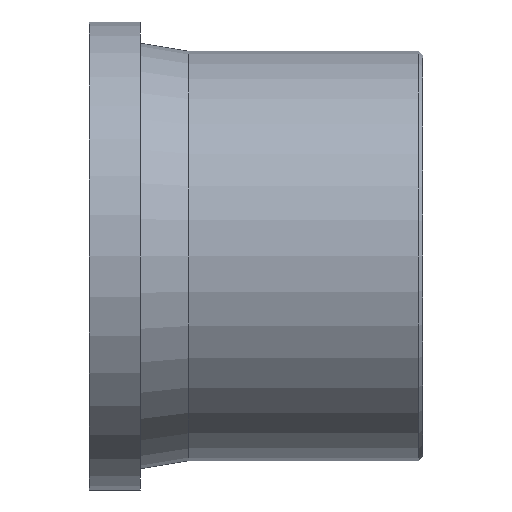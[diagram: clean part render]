
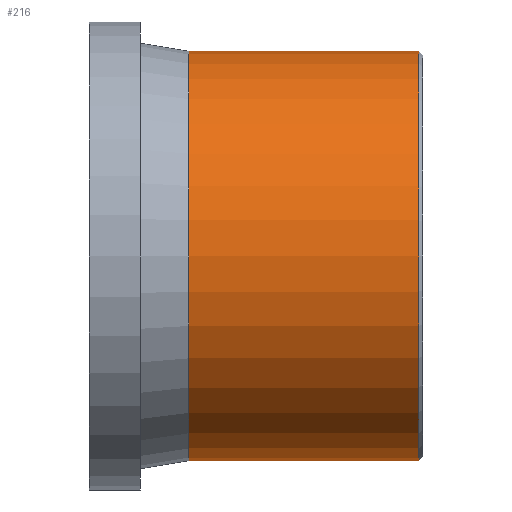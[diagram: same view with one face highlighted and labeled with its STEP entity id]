
A CAD part, front view. The second image highlights one B-rep face of the part: STEP entity #216.
In plain terms, the highlighted cylindrical face has radius 140 mm (diameter 280 mm), a full revolution.
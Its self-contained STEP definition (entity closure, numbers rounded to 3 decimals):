
#24=CYLINDRICAL_SURFACE('',#240,140.);
#34=FACE_BOUND('',#76,.T.);
#54=FACE_OUTER_BOUND('',#75,.T.);
#75=EDGE_LOOP('',(#175));
#76=EDGE_LOOP('',(#176));
#113=CIRCLE('',#238,140.);
#115=CIRCLE('',#241,140.);
#133=VERTEX_POINT('',#361);
#135=VERTEX_POINT('',#366);
#153=EDGE_CURVE('',#133,#133,#113,.T.);
#155=EDGE_CURVE('',#135,#135,#115,.T.);
#175=ORIENTED_EDGE('',*,*,#155,.T.);
#176=ORIENTED_EDGE('',*,*,#153,.F.);
#216=ADVANCED_FACE('',(#54,#34),#24,.T.);
#238=AXIS2_PLACEMENT_3D('',#362,#281,#282);
#240=AXIS2_PLACEMENT_3D('',#365,#285,#286);
#241=AXIS2_PLACEMENT_3D('',#367,#287,#288);
#281=DIRECTION('center_axis',(1.,0.,0.));
#282=DIRECTION('ref_axis',(0.,-1.,0.));
#285=DIRECTION('center_axis',(1.,0.,0.));
#286=DIRECTION('ref_axis',(0.,1.,0.));
#287=DIRECTION('center_axis',(1.,0.,0.));
#288=DIRECTION('ref_axis',(0.,0.,-1.));
#361=CARTESIAN_POINT('',(-2.8,140.,0.));
#362=CARTESIAN_POINT('Origin',(-2.8,0.,
0.));
#365=CARTESIAN_POINT('Origin',(-80.,0.,0.));
#366=CARTESIAN_POINT('',(-160.,140.,0.));
#367=CARTESIAN_POINT('Origin',(-160.,0.,0.));
